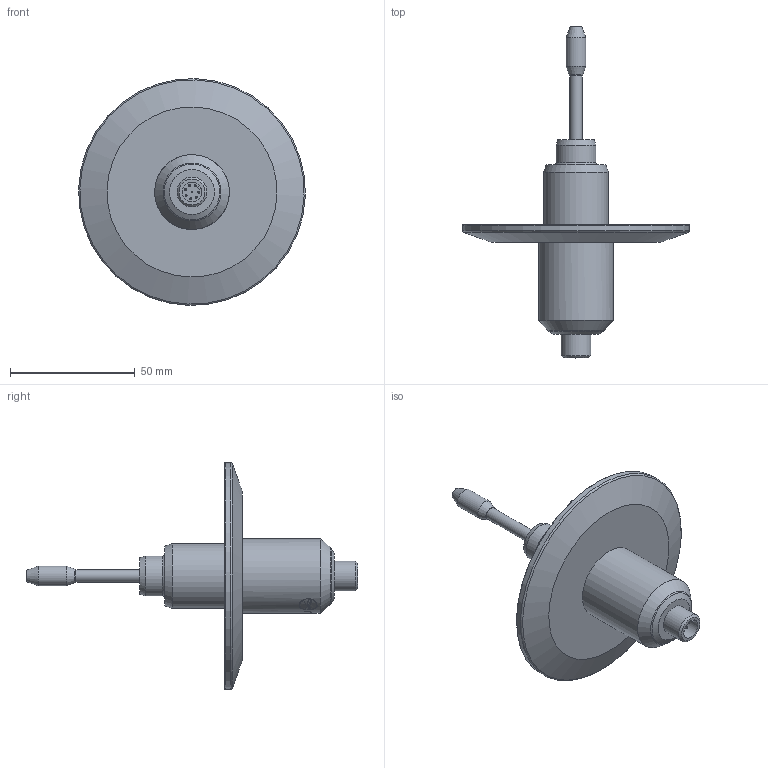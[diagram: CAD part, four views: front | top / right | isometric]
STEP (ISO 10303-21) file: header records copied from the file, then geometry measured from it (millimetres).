
FILE_DESCRIPTION(/* description */ ('Unknown'),/* implementation_level */ '2;1');
FILE_NAME(/* name */ 'SRV-X3-30T',/* time_stamp */ '2023-12-12T17:10:24-05:00',/* author */ ('Unknown'),/* organization */ ('Unknown'),/* preprocessor_version */ 'ST-DEVELOPER v16.7',/* originating_system */ 'Solid Edge',/* authorisation */ 'Unknown');
FILE_SCHEMA (('CONFIG_CONTROL_DESIGN'));
Length unit declared in the file: millimetre
Products named in the file (1): SRV-X3-30T
Bounding box: 90.94 x 133.13 x 90.94 mm (x, y, z)
Volume: 79873.4 mm3; surface area: 21424.4 mm2
Topology: 1 solids, 1 shells, 173 faces, 443 edges, 294 vertices
Faces by surface type: bspline 71, cylinder 38, plane 38, cone 12, sphere 8, torus 6
Full cylindrical faces by diameter (mm): 0.8 x8, 5.019 x1, 8 x2, 12 x1, 16 x1, 26 x1, 30 x1, 91 x1
Entity records: 9140 total; most frequent: CARTESIAN_POINT 4546, ORIENTED_EDGE 742, DIRECTION 480, EDGE_CURVE 371, VERTEX_POINT 264, EDGE_LOOP 237, FACE_BOUND 237, AXIS2_PLACEMENT_3D 177
